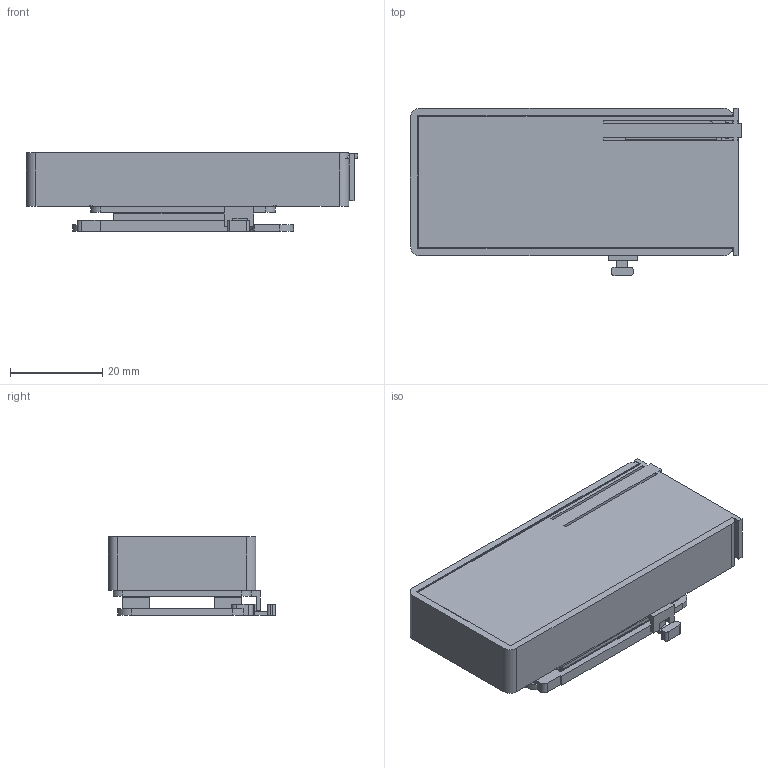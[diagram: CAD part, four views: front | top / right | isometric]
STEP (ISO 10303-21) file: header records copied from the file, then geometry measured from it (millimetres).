
FILE_DESCRIPTION(('Open CASCADE Model'),'2;1');
FILE_NAME('Open CASCADE Shape Model','2026-10-03T23:43:16',('Author'),( 'Open CASCADE'),'Open CASCADE STEP processor 7.9','Open CASCADE 7.9' ,'Unknown');
FILE_SCHEMA(('AUTOMOTIVE_DESIGN { 1 0 10303 214 1 1 1 1 }'));
Length unit declared in the file: millimetre
Products named in the file (6): Open CASCADE STEP translator 7.9 1; Open CASCADE STEP translator 7.9 1.1; Open CASCADE STEP translator 7.9 1.2; Open CASCADE STEP translator 7.9 1.3; Open CASCADE STEP translator 7.9 1.4; Open CASCADE STEP translator 7.9 1.5
Assembly tree (5 placements, depth 2):
  Open CASCADE STEP translator 7.9 1
    Open CASCADE STEP translator 7.9 1.1
    Open CASCADE STEP translator 7.9 1.2
    Open CASCADE STEP translator 7.9 1.3
    Open CASCADE STEP translator 7.9 1.4
    Open CASCADE STEP translator 7.9 1.5
Bounding box: 71.9 x 36.3 x 17 mm (x, y, z)
Volume: 13640.3 mm3; surface area: 23051.1 mm2
Topology: 5 solids, 5 shells, 379 faces, 1078 edges, 721 vertices
Faces by surface type: plane 323, cylinder 56
Entity records: 26066 total; most frequent: CARTESIAN_POINT 5237, DIRECTION 3588, LINE 2511, VECTOR 2511, ORIENTED_EDGE 2156, PCURVE 2156, DEFINITIONAL_REPRESENTATION 2156, EDGE_CURVE 1078
